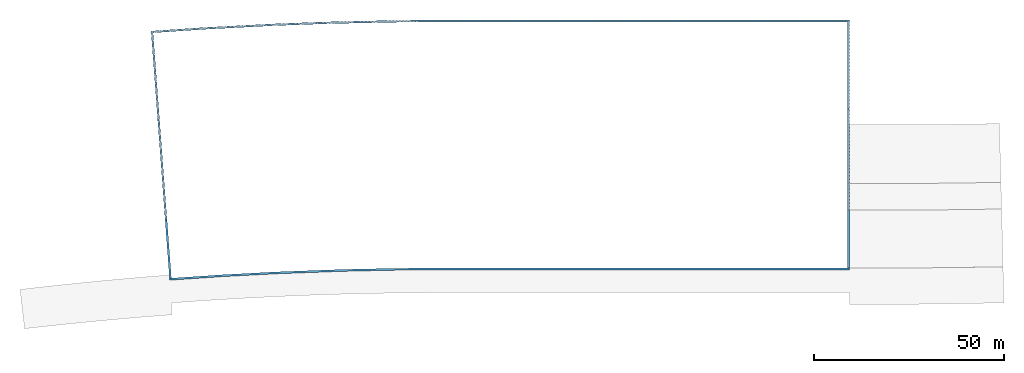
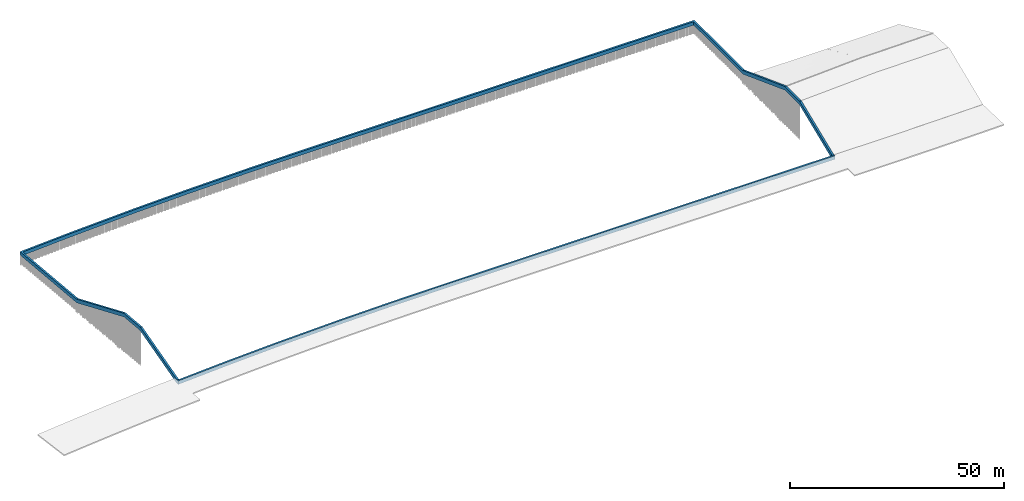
# One storey, part 2 of 15: 1 slab.
"""IFC2X3 building model written with IfcOpenShell, lengths in millimetres."""

from ifc_helpers import new_model, entity, si_unit, converted_unit, derived_unit, direction, frame, origin, place, context, subcontext, project, spatial, faceted_brep, type_object, element, save


model = new_model("IFC2X3")

# Units and contexts
model_context = context("Model", 3, precision=0.01, world=origin(), true_north=direction((6.12303176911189e-17, 1.0)))
body_context = subcontext(model_context, "Body", "Model", "MODEL_VIEW")
ifc_project = project(units=[si_unit("LENGTHUNIT", "METRE", prefix="MILLI"), si_unit("AREAUNIT", "SQUARE_METRE"), si_unit("VOLUMEUNIT", "CUBIC_METRE"), converted_unit("PLANEANGLEUNIT", "DEGREE", entity("IfcRatioMeasure", 0.0174532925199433), si_unit("PLANEANGLEUNIT", "RADIAN"), dimensions=[0, 0, 0, 0, 0, 0, 0]), si_unit("MASSUNIT", "GRAM", prefix="KILO"), derived_unit("MASSDENSITYUNIT", [(si_unit("MASSUNIT", "GRAM", prefix="KILO"), 1), (si_unit("LENGTHUNIT", "METRE"), -3)]), derived_unit("MOMENTOFINERTIAUNIT", [(si_unit("LENGTHUNIT", "METRE"), 4)]), si_unit("TIMEUNIT", "SECOND"), si_unit("FREQUENCYUNIT", "HERTZ"), si_unit("THERMODYNAMICTEMPERATUREUNIT", "DEGREE_CELSIUS"), derived_unit("THERMALTRANSMITTANCEUNIT", [(si_unit("MASSUNIT", "GRAM", prefix="KILO"), 1), (si_unit("THERMODYNAMICTEMPERATUREUNIT", "KELVIN"), -1), (si_unit("TIMEUNIT", "SECOND"), -3)]), derived_unit("VOLUMETRICFLOWRATEUNIT", [(si_unit("LENGTHUNIT", "METRE"), 3), (si_unit("TIMEUNIT", "SECOND"), -1)]), si_unit("ELECTRICCURRENTUNIT", "AMPERE"), si_unit("ELECTRICVOLTAGEUNIT", "VOLT"), si_unit("POWERUNIT", "WATT"), si_unit("FORCEUNIT", "NEWTON", prefix="KILO"), si_unit("ILLUMINANCEUNIT", "LUX"), si_unit("LUMINOUSFLUXUNIT", "LUMEN"), si_unit("LUMINOUSINTENSITYUNIT", "CANDELA"), derived_unit("USERDEFINED", [(si_unit("MASSUNIT", "GRAM", prefix="KILO"), -1), (si_unit("LENGTHUNIT", "METRE"), -2), (si_unit("TIMEUNIT", "SECOND"), 3), (si_unit("LUMINOUSFLUXUNIT", "LUMEN"), 1)]), derived_unit("LINEARVELOCITYUNIT", [(si_unit("LENGTHUNIT", "METRE"), 1), (si_unit("TIMEUNIT", "SECOND"), -1)]), si_unit("PRESSUREUNIT", "PASCAL"), derived_unit("USERDEFINED", [(si_unit("LENGTHUNIT", "METRE"), -2), (si_unit("MASSUNIT", "GRAM", prefix="KILO"), 1), (si_unit("TIMEUNIT", "SECOND"), -2)]), derived_unit("LINEARFORCEUNIT", [(si_unit("MASSUNIT", "GRAM", prefix="KILO"), 1), (si_unit("LENGTHUNIT", "METRE"), 1), (si_unit("TIMEUNIT", "SECOND"), -2), (si_unit("LENGTHUNIT", "METRE"), -1)]), derived_unit("PLANARFORCEUNIT", [(si_unit("MASSUNIT", "GRAM", prefix="KILO"), 1), (si_unit("LENGTHUNIT", "METRE"), 1), (si_unit("TIMEUNIT", "SECOND"), -2), (si_unit("LENGTHUNIT", "METRE"), -2)])], contexts=[model_context])

# Site, building, storey
site_placement = place(None, origin())
site = spatial("IfcSite", under=ifc_project, at=site_placement, Name="Default", CompositionType="ELEMENT")
building_placement = place(site_placement, origin())
building = spatial("IfcBuilding", under=site, at=building_placement, CompositionType="ELEMENT")
storey_placement = place(building_placement, frame((0.0, 0.0, 9500.0)))
storey = spatial("IfcBuildingStorey", under=building, at=storey_placement, Name="AP+9.500", CompositionType="ELEMENT", Elevation=9500.0)

# Slab
slab_type = type_object("IfcSlabType", Name="笠コンクリート:笠コンクリート", PredefinedType="BASESLAB")
slab_placement = place(storey_placement, frame((-93656.6949705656, -18424.1576514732, -1000.0)))
element("IfcSlab", 1, at=slab_placement, inside=storey, type_object=slab_type, Name="笠コンクリート:笠コンクリート", ObjectType="笠コンクリート:笠コンクリート", PredefinedType="BASESLAB", context=body_context, shape_type="Brep", body=[
    faceted_brep([(38.7581774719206, 65021.2528287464, 1000.0), (1.59527223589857, 65519.8698345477, 1000.0), (1.59527223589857, 65519.8698345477, 0.0), (38.758177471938, 65021.2528287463, 0.0), (4847.63811502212, 500.212278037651, 1100.0), (4884.80102025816, 1.59527223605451, 1100.0), (4884.80102025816, 1.5952722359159, 2100.0), (4847.63811502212, 500.212278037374, 2100.0), (54967.2029215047, 68133.0140459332, 1000.0), (63841.5593075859, 68328.1053084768, 1000.0), (63841.5593075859, 68328.1053084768, 0.0), (54967.2029215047, 68133.0140459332, 0.0), (46092.8465354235, 67937.9227833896, 0.0), (46092.8465354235, 67937.9227833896, 1000.0), (7086.59186349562, 65999.7691728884, 1000.0), (14171.5884547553, 66479.668511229, 1000.0), (14171.5884547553, 66479.668511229, 0.0), (7086.59186349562, 65999.7691728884, 0.0), (31900.2091257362, 67409.7526881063, 0.0), (23035.8987902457, 66944.7105996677, 0.0), (23035.8987902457, 66944.7105996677, 1000.0), (31900.2091257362, 67409.7526881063, 1000.0), (38996.5278305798, 67673.8377357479, 0.0), (38996.5278305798, 67673.8377357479, 1000.0), (78043.6962679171, 68424.1576514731, 1000.0), (78043.6962679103, 68424.1576514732, 0.0), (70942.6277877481, 68376.131479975, 0.0), (69099.1380815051, 68363.6635319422, 1000.0), (78043.6962679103, 67924.1576514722, 0.0), (70946.0092489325, 67876.1543495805, 0.0), (63848.322229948, 67828.151047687, 0.0), (54978.1917278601, 67633.1526857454, 0.0), (46108.0612257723, 67438.1543238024, 0.0), (39015.1217203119, 67174.195030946, 0.0), (31922.1822148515, 66910.2357380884, 0.0), (23062.0929795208, 66445.4150982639, 0.0), (14202.0037441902, 65980.5944584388, 0.0), (7120.38096083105, 65500.9236435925, 0.0), (183660.694970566, 68424.1576514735, 0.0), (183660.694970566, 44823.505487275, 0.0), (183160.694970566, 44823.5054872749, 0.0), (183160.694970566, 67924.1576514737, 0.0), (63848.322229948, 67828.1510476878, 1000.0), (54978.1917278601, 67633.1526857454, 1000.0), (46108.0612257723, 67438.154323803, 1000.0), (14202.0037441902, 65980.5944584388, 1000.0), (7120.38096083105, 65500.9236435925, 1000.0), (31922.1822148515, 66910.2357380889, 1000.0), (23062.0929795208, 66445.4150982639, 1000.0), (39015.1217203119, 67174.195030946, 1000.0), (78043.6962679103, 67924.1576514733, 1000.0), (69101.267991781, 67863.6779370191, 1000.0), (183160.694970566, 67924.157651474, 1000.0), (183160.694970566, 45004.1576514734, 1000.0), (183660.694970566, 45004.1576514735, 1000.0), (183660.694970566, 68424.1576514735, 1000.0), (183660.694970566, 3224.15765147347, 2100.0), (183660.694970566, 2724.15765147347, 2100.0), (183660.694970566, 2724.15765147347, 1100.0), (183660.694970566, 3420.64249054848, 1100.0), (183660.694970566, 18620.6424905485, 7313.0), (183660.694970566, 25243.5054872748, 7313.0), (183660.694970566, 25424.1576514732, 8313.0), (183660.694970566, 18424.1576514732, 8313.0), (183160.694970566, 2724.15765147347, 2100.0), (78043.6962679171, 2724.15765147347, 2100.0), (78043.6962679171, 2724.15765147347, 1100.0), (183160.694970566, 3224.15765147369, 1100.0), (183160.694970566, 3420.64249054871, 1100.0), (71069.9846895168, 2674.74680659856, 1100.0), (64096.2731111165, 2625.33596172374, 1100.0), (57123.9618252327, 2477.11334859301, 1100.0), (50151.6505393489, 2328.89073546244, 1100.0), (41440.3633736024, 2004.70564994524, 1100.0), (32729.0762078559, 1680.52056442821, 1100.0), (25765.0334882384, 1310.11050834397, 1100.0), (18800.9907686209, 939.700452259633, 1100.0), (11842.8958944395, 470.647862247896, 1100.0), (11809.267528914, 969.503135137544, 1100.0), (18770.8969428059, 1438.79399223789, 1100.0), (25738.477223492, 1809.3922074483, 1100.0), (32706.0575041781, 2179.99042265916, 1100.0), (41421.7697878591, 2504.34018616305, 1100.0), (50137.48207154, 2828.68994966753, 1100.0), (57113.3351187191, 2976.98785621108, 1100.0), (64089.1881658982, 3125.28576275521, 1100.0), (71066.4422169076, 3174.72170711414, 1100.0), (78043.6962679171, 3224.15765147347, 1100.0), (183160.694970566, 3224.15765147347, 2100.0), (78043.6962679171, 3224.15765147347, 2100.0), (71066.4422169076, 3174.72170711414, 2100.0), (64089.1881658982, 3125.28576275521, 2100.0), (57113.3351187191, 2976.98785621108, 2100.0), (50137.48207154, 2828.68994966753, 2100.0), (41421.7697878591, 2504.34018616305, 2100.0), (32706.0575041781, 2179.99042265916, 2100.0), (25738.477223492, 1809.3922074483, 2100.0), (18770.8969428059, 1438.79399223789, 2100.0), (13490.614717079, 1082.84454073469, 2100.0), (13525.5832493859, 584.079609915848, 2100.0), (18800.9907686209, 939.700452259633, 2100.0), (25765.0334882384, 1310.11050834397, 2100.0), (32729.0762078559, 1680.52056442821, 2100.0), (41440.3633736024, 2004.70564994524, 2100.0), (50151.6505393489, 2328.89073546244, 2100.0), (57123.9618252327, 2477.11334859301, 2100.0), (64096.2731111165, 2625.33596172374, 2100.0), (71069.9846895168, 2674.74680659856, 2100.0), (183160.694970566, 18620.6424905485, 7313.0), (183160.694970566, 25243.5054872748, 7313.0), (183160.694970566, 25424.1576514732, 8313.0), (183160.694970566, 18424.1576514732, 8313.0)], [[[0, 1, 2, 3]], [[4, 5, 6, 7]], [[8, 9, 10, 11, 12, 13]], [[14, 15, 16, 17, 2, 1]], [[18, 19, 16, 15, 20, 21]], [[12, 22, 18, 21, 23, 13]], [[24, 25, 26, 10, 9, 27]], [[28, 29, 30, 31, 32, 33, 34, 35, 36, 37, 3, 2, 17, 16, 19, 18, 22, 12, 11, 10, 26, 25, 38, 39, 40, 41]], [[30, 42, 43, 44, 32, 31]], [[36, 45, 46, 0, 3, 37]], [[47, 48, 45, 36, 35, 34]], [[44, 49, 47, 34, 33, 32]], [[29, 28, 50, 51, 42, 30]], [[52, 53, 54, 55, 24, 27, 9, 8, 13, 23, 21, 20, 15, 14, 1, 0, 46, 45, 48, 47, 49, 44, 43, 42, 51, 50]], [[25, 24, 55, 38]], [[50, 28, 41, 52]], [[56, 57, 58, 59, 60, 61, 39, 38, 55, 54, 62, 63]], [[58, 57, 64, 65, 66]], [[67, 68, 59, 58, 66, 69, 70, 71, 72, 73, 74, 75, 76, 77, 5, 4, 78, 79, 80, 81, 82, 83, 84, 85, 86, 87]], [[88, 67, 87, 89]], [[57, 56, 88, 89, 90, 91, 92, 93, 94, 95, 96, 97, 98, 7, 6, 99, 100, 101, 102, 103, 104, 105, 106, 107, 65, 64]], [[69, 66, 65, 107, 106, 70]], [[105, 104, 72, 71, 70, 106]], [[73, 72, 104, 103, 102, 74]], [[6, 5, 77, 76, 100, 99]], [[76, 75, 74, 102, 101, 100]], [[85, 91, 90, 89, 87, 86]], [[91, 85, 84, 83, 93, 92]], [[93, 83, 82, 81, 95, 94]], [[78, 4, 7, 98, 97, 79]], [[96, 95, 81, 80, 79, 97]], [[60, 59, 68, 108]], [[39, 61, 109, 40]], [[62, 54, 53, 110]], [[56, 63, 111, 88]], [[111, 110, 53, 52, 41, 40, 109, 108, 68, 67, 88]], [[61, 60, 108, 109]], [[63, 62, 110, 111]]]),
    faceted_brep([(500.214490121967, 65557.0030602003, 1000.0), (2240.92497137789, 42201.7825084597, 1000.0), (3696.22434042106, 22675.9405612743, 8313.0), (4216.50501372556, 15695.3024800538, 8313.0), (5346.25733290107, 537.345503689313, 2100.0), (5383.42023813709, 38.7284978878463, 2100.0), (5383.42023813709, 38.7284978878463, 1100.0), (5331.65343799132, 733.286867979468, 1100.0), (4201.90111881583, 15891.243844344, 7313.0), (3709.65145893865, 22495.7880788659, 7313.0), (2254.35208989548, 42021.6300260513, 0.0), (500.214490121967, 65557.0030602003, 0.0), (1.59748432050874, 65519.8401549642, 1000.0), (1742.30796557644, 42164.6196032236, 1000.0), (3197.6073346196, 22638.7776560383, 8313.0), (3717.8880079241, 15658.1395748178, 8313.0), (4847.64032709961, 500.182598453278, 2100.0), (4884.80323233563, 1.5655926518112, 2100.0), (4884.80323233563, 1.5655926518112, 1100.0), (4833.03643218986, 696.123962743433, 1100.0), (3703.28411301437, 15854.080939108, 7313.0), (3211.03445313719, 22458.6251736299, 7313.0), (1755.73508409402, 41984.4671208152, 0.0), (1.59748432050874, 65519.8401549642, 0.0)], [[[0, 1, 2, 3, 4, 5, 6, 7, 8, 9, 10, 11]], [[1, 0, 12, 13]], [[2, 1, 13, 14]], [[4, 3, 15, 16]], [[5, 4, 16, 17]], [[6, 5, 17, 18]], [[7, 6, 18, 19]], [[8, 7, 19, 20]], [[10, 9, 21, 22]], [[11, 10, 22, 23]], [[0, 11, 23, 12]], [[12, 23, 22, 21, 20, 19, 18, 17, 16, 15, 14, 13]], [[3, 2, 14, 15]], [[9, 8, 20, 21]]]),
])

save(model, "model.ifc")
